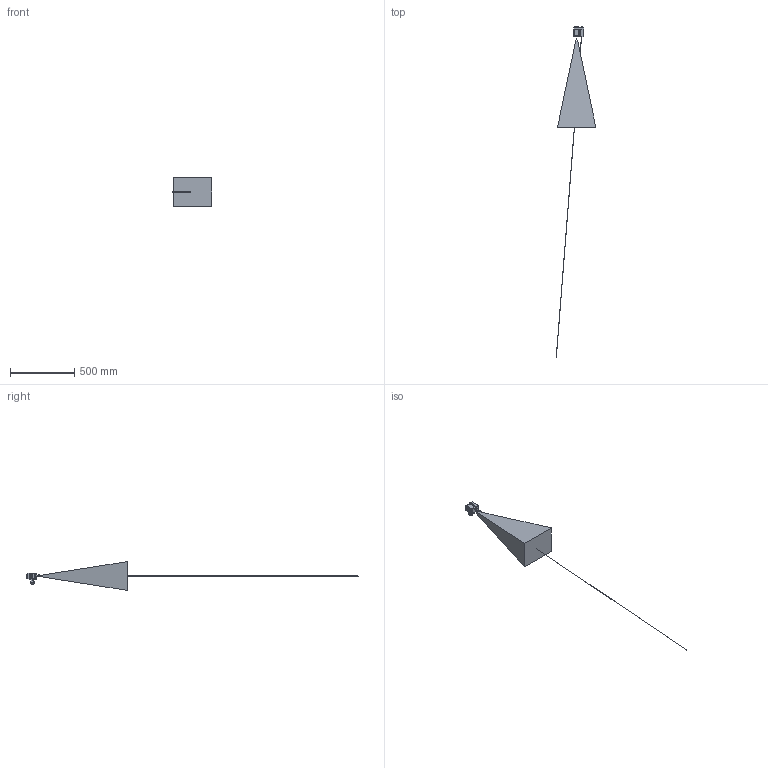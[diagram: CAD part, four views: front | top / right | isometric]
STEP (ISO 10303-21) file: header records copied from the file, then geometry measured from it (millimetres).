
FILE_DESCRIPTION(/* description */ (''),/* implementation_level */ '2;1');
FILE_NAME(/* name */ 'VISOR +Z.stp',/* time_stamp */ '2024-04-09T08:49:20+02:00',/* author */ ('SensoPart'),/* organization */ ('SensoPart'),/* preprocessor_version */ 'ST-DEVELOPER v19.2',/* originating_system */ 'Autodesk Inventor 2023',/* authorisation */ '');
FILE_SCHEMA (('AUTOMOTIVE_DESIGN { 1 0 10303 214 3 1 1 }'));
Length unit declared in the file: millimetre
Products named in the file (1): GH-ENG-0044988_Vereinfachen_1
Bounding box: 308.01 x 2576.64 x 222.73 mm (x, y, z)
Volume: 15751895.4 mm3; surface area: 493102.3 mm2
Topology: 4 solids, 4 shells, 934 faces, 2542 edges, 1766 vertices
Faces by surface type: plane 572, cylinder 219, bspline 71, cone 70, torus 2
Full cylindrical faces by diameter (mm): 0.6 x36, 1 x2, 1.05 x4, 1.1 x1, 2.459 x1, 2.5 x1, 3.242 x3, 4.2 x2, 5 x2, 5.3 x2, 8 x2, 8.3 x3, 8.5 x1, 9.45 x3, 9.6 x3, 10.2 x1, 10.9 x3, 10.923 x1, 17.96 x1, 18 x4
Entity records: 38227 total; most frequent: CARTESIAN_POINT 13902, ORIENTED_EDGE 5072, DIRECTION 4421, EDGE_CURVE 2536, VERTEX_POINT 1765, LINE 1537, VECTOR 1537, AXIS2_PLACEMENT_3D 1442
